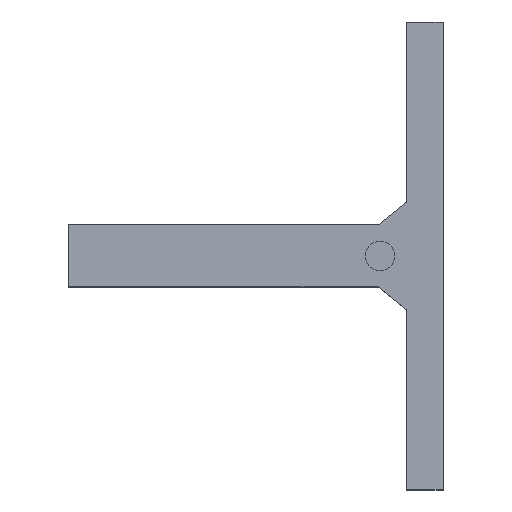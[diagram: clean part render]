
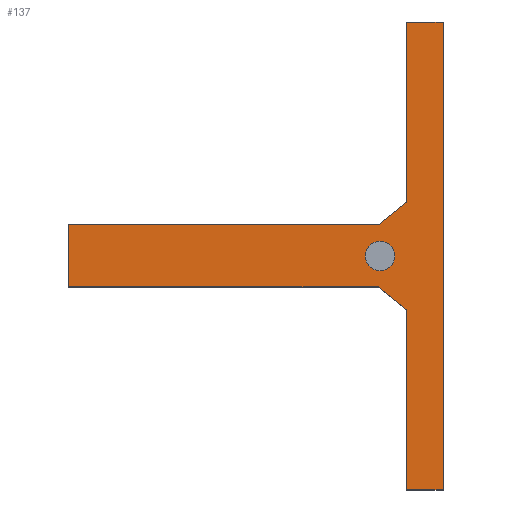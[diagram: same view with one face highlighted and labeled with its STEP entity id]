
A CAD part, top view. The second image highlights one B-rep face of the part: STEP entity #137.
In plain terms, the highlighted planar face has unit normal (0, 0, 1).
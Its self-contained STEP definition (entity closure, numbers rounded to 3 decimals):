
#30=CARTESIAN_POINT('',(0.,0.,9.5));
#31=DIRECTION('',(-1.,0.,0.));
#32=DIRECTION('',(0.,0.,1.));
#33=AXIS2_PLACEMENT_3D('',#30,#32,#31);
#34=PLANE('',#33);
#35=CARTESIAN_POINT('',(23.335,-13.586,9.5));
#36=VERTEX_POINT('',#35);
#37=CARTESIAN_POINT('',(23.335,32.414,9.5));
#38=VERTEX_POINT('',#37);
#39=CARTESIAN_POINT('',(23.335,-13.586,9.5));
#40=DIRECTION('',(0.,1.,0.));
#41=VECTOR('',#40,46.);
#42=LINE('',#39,#41);
#43=EDGE_CURVE('',#36,#38,#42,.T.);
#44=ORIENTED_EDGE('E1',*,*,#43,.T.);
#45=CARTESIAN_POINT('',(19.735,32.414,9.5));
#46=VERTEX_POINT('',#45);
#47=CARTESIAN_POINT('',(23.335,32.414,9.5));
#48=DIRECTION('',(-1.,0.,0.));
#49=VECTOR('',#48,3.6);
#50=LINE('',#47,#49);
#51=EDGE_CURVE('',#38,#46,#50,.T.);
#52=ORIENTED_EDGE('E2',*,*,#51,.T.);
#53=CARTESIAN_POINT('',(19.735,14.714,9.5));
#54=VERTEX_POINT('',#53);
#55=CARTESIAN_POINT('',(19.735,32.414,9.5));
#56=DIRECTION('',(0.,-1.,0.));
#57=VECTOR('',#56,17.7);
#58=LINE('',#55,#57);
#59=EDGE_CURVE('',#46,#54,#58,.T.);
#60=ORIENTED_EDGE('E3',*,*,#59,.T.);
#61=CARTESIAN_POINT('',(16.935,12.464,9.5));
#62=VERTEX_POINT('',#61);
#63=CARTESIAN_POINT('',(19.735,14.714,9.5));
#64=DIRECTION('',(-0.78,-0.626,0.));
#65=VECTOR('',#64,3.592);
#66=LINE('',#63,#65);
#67=EDGE_CURVE('',#54,#62,#66,.T.);
#68=ORIENTED_EDGE('E4',*,*,#67,.T.);
#69=CARTESIAN_POINT('',(-13.465,12.464,9.5));
#70=VERTEX_POINT('',#69);
#71=CARTESIAN_POINT('',(16.935,12.464,9.5));
#72=DIRECTION('',(-1.,0.,0.));
#73=VECTOR('',#72,30.4);
#74=LINE('',#71,#73);
#75=EDGE_CURVE('',#62,#70,#74,.T.);
#76=ORIENTED_EDGE('E5',*,*,#75,.T.);
#77=CARTESIAN_POINT('',(-13.465,6.364,9.5));
#78=VERTEX_POINT('',#77);
#79=CARTESIAN_POINT('',(-13.465,12.464,9.5));
#80=DIRECTION('',(0.,-1.,0.));
#81=VECTOR('',#80,6.1);
#82=LINE('',#79,#81);
#83=EDGE_CURVE('',#70,#78,#82,.T.);
#84=ORIENTED_EDGE('E6',*,*,#83,.T.);
#85=CARTESIAN_POINT('',(16.935,6.364,9.5));
#86=VERTEX_POINT('',#85);
#87=CARTESIAN_POINT('',(-13.465,6.364,9.5));
#88=DIRECTION('',(1.,0.,0.));
#89=VECTOR('',#88,30.4);
#90=LINE('',#87,#89);
#91=EDGE_CURVE('',#78,#86,#90,.T.);
#92=ORIENTED_EDGE('E7',*,*,#91,.T.);
#93=CARTESIAN_POINT('',(19.735,4.114,9.5));
#94=VERTEX_POINT('',#93);
#95=CARTESIAN_POINT('',(16.935,6.364,9.5));
#96=DIRECTION('',(0.78,-0.626,0.));
#97=VECTOR('',#96,3.592);
#98=LINE('',#95,#97);
#99=EDGE_CURVE('',#86,#94,#98,.T.);
#100=ORIENTED_EDGE('E8',*,*,#99,.T.);
#101=CARTESIAN_POINT('',(19.735,-13.586,9.5));
#102=VERTEX_POINT('',#101);
#103=CARTESIAN_POINT('',(19.735,4.114,9.5));
#104=DIRECTION('',(0.,-1.,0.));
#105=VECTOR('',#104,17.7);
#106=LINE('',#103,#105);
#107=EDGE_CURVE('',#94,#102,#106,.T.);
#108=ORIENTED_EDGE('E9',*,*,#107,.T.);
#109=CARTESIAN_POINT('',(19.735,-13.586,9.5));
#110=DIRECTION('',(1.,0.,0.));
#111=VECTOR('',#110,3.6);
#112=LINE('',#109,#111);
#113=EDGE_CURVE('',#102,#36,#112,.T.);
#114=ORIENTED_EDGE('E10',*,*,#113,.T.);
#115=EDGE_LOOP('',(#44,#52,#60,#68,#76,#84,#92,#100,#108,#114));
#116=FACE_OUTER_BOUND('',#115,.T.);
#117=CARTESIAN_POINT('',(17.135,10.864,9.5));
#118=VERTEX_POINT('',#117);
#119=CARTESIAN_POINT('',(15.685,9.414,9.5));
#120=VERTEX_POINT('',#119);
#121=CARTESIAN_POINT('',(17.135,9.414,9.5));
#122=DIRECTION('',(0.,1.,0.));
#123=DIRECTION('',(0.,0.,-1.));
#124=AXIS2_PLACEMENT_3D('',#121,#123,#122);
#125=CIRCLE('',#124,1.45);
#126=EDGE_CURVE('',#118,#120,#125,.T.);
#127=ORIENTED_EDGE('E11',*,*,#126,.T.);
#128=CARTESIAN_POINT('',(17.135,9.414,9.5));
#129=DIRECTION('',(-1.,0.,0.));
#130=DIRECTION('',(0.,0.,-1.));
#131=AXIS2_PLACEMENT_3D('',#128,#130,#129);
#132=CIRCLE('',#131,1.45);
#133=EDGE_CURVE('',#120,#118,#132,.T.);
#134=ORIENTED_EDGE('E151',*,*,#133,.T.);
#135=EDGE_LOOP('',(#127,#134));
#136=FACE_BOUND('',#135,.T.);
#137=ADVANCED_FACE('F1',(#116,#136),#34,.T.);
